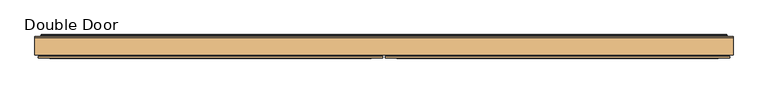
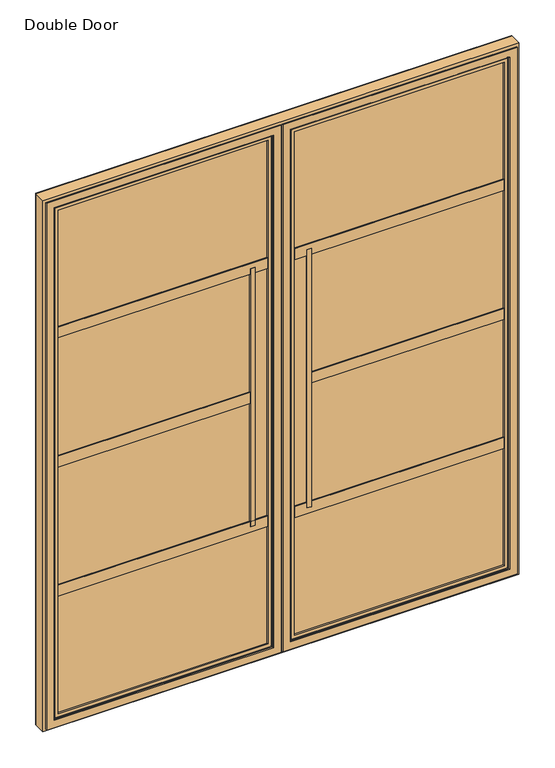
"""IFC4 building model written with IfcOpenShell, lengths in millimetres: door geometry, SMARTS_HeritageDoor 3Rail : Double Door."""

import ifcopenshell
import ifcopenshell.guid

model = None  # the IFC model being written
_history = None  # IfcOwnerHistory: only IFC2X3 demands one
_inside = {}  # id of a spatial element -> (the spatial element, [elements in it])
_under = {}  # id of a project, library or spatial element -> (it, [spatial elements below it])
_declared = {}  # id of a project -> (the project, [libraries it declares])
_typed = {}  # id of a type object -> (the type object, [elements of that type])
_made_of = {}  # id of a material, layer set ... -> (it, [elements and type objects made of it])


def new_model(schema):
    """Start an empty IFC model of exactly this schema.

    Asked for "IFC4X3", IfcOpenShell would pick the latest addendum, in which some entities
    have other attributes; the version numbers below select the first issue.
    IFC2X3 requires an IfcOwnerHistory on every rooted entity: one is made here for all.
    """
    global model, _history
    if schema == "IFC4X3":
        model = ifcopenshell.file(schema_version=(4, 3, 0, 0))
    else:
        model = ifcopenshell.file(schema=schema)
    _inside.clear()
    _under.clear()
    _declared.clear()
    _typed.clear()
    _made_of.clear()
    _history = None
    if model.schema == "IFC2X3":
        org = make("IfcOrganization", Name="unknown")
        user = make(
            "IfcPersonAndOrganization",
            ThePerson=make("IfcPerson", FamilyName="unknown"),
            TheOrganization=org,
        )
        app = make(
            "IfcApplication",
            ApplicationDeveloper=org,
            Version="unknown",
            ApplicationFullName="unknown",
            ApplicationIdentifier="unknown",
        )
        _history = make(
            "IfcOwnerHistory",
            OwningUser=user,
            OwningApplication=app,
            ChangeAction="ADDED",
            CreationDate=0,
        )
    return model


def make(cls, **values):
    """One entity of the class cls with the attributes given. An attribute that is None is left unset."""
    return model.create_entity(
        cls, **{name: value for name, value in values.items() if value is not None}
    )


def rooted(cls, **values):
    """An entity with a GlobalId (a new one), such as an element, a storey or a relation."""
    return make(cls, GlobalId=ifcopenshell.guid.new(), OwnerHistory=_history, **values)


def si_unit(unit_type, name, prefix=None):
    """IfcSIUnit, for example si_unit("LENGTHUNIT", "METRE", prefix="MILLI")."""
    return make("IfcSIUnit", UnitType=unit_type, Prefix=prefix, Name=name)


def assignment(units):
    """IfcUnitAssignment: the units of a project."""
    return None if units is None else make("IfcUnitAssignment", Units=units)


def point(xyz):
    """IfcCartesianPoint."""
    return None if xyz is None else make("IfcCartesianPoint", Coordinates=xyz)


def direction(xyz):
    """IfcDirection."""
    return None if xyz is None else make("IfcDirection", DirectionRatios=xyz)


def frame(location, z_axis=None, x_axis=None):
    """IfcAxis2Placement3D, a coordinate frame: its origin and axes. An axis left out is left unset."""
    return make(
        "IfcAxis2Placement3D",
        Location=point(location),
        Axis=direction(z_axis),
        RefDirection=direction(x_axis),
    )


def origin():
    """The frame at (0, 0, 0) with its axes left unset."""
    return frame((0.0, 0.0, 0.0))


def place(relative_to, where):
    """IfcLocalPlacement: puts the frame where relative to a parent placement (None: the world)."""
    return make(
        "IfcLocalPlacement", PlacementRelTo=relative_to, RelativePlacement=where
    )


def context(
    kind, dimensions, precision=None, world=None, true_north=None, identifier=None
):
    """IfcGeometricRepresentationContext, for example the 3D "Model" context."""
    return make(
        "IfcGeometricRepresentationContext",
        ContextIdentifier=identifier,
        ContextType=kind,
        CoordinateSpaceDimension=dimensions,
        Precision=precision,
        WorldCoordinateSystem=world,
        TrueNorth=true_north,
    )


def project(units=None, contexts=None):
    """IfcProject with its units and contexts."""
    return rooted(
        "IfcProject",
        Name="project",
        RepresentationContexts=contexts,
        UnitsInContext=assignment(units),
    )


def spatial(cls, under=None, at=None, **own):
    """A site, building, storey or space (cls), placed at a placement, below another one or the project."""
    s = rooted(cls, ObjectPlacement=at, **own)
    if under is not None:
        _under.setdefault(under.id(), (under, []))[1].append(s)
    return s


def polyline(points):
    """IfcPolyline through the points."""
    return make("IfcPolyline", Points=[point(p) for p in points])


def ellipse_curve(where, semi_axis1, semi_axis2):
    """IfcEllipse in the frame where."""
    return make(
        "IfcEllipse", Position=where, SemiAxis1=semi_axis1, SemiAxis2=semi_axis2
    )


def outline(outer, holes=None, kind="AREA"):
    """IfcArbitraryClosedProfileDef: a profile drawn as a closed curve; with holes, ...WithVoids."""
    if holes is None:
        return make("IfcArbitraryClosedProfileDef", ProfileType=kind, OuterCurve=outer)
    return make(
        "IfcArbitraryProfileDefWithVoids",
        ProfileType=kind,
        OuterCurve=outer,
        InnerCurves=holes,
    )


def extrude(swept, where, along, depth):
    """IfcExtrudedAreaSolid: the profile swept, set in the frame where, extruded along a direction by depth."""
    return make(
        "IfcExtrudedAreaSolid",
        SweptArea=swept,
        Position=where,
        ExtrudedDirection=direction(along),
        Depth=depth,
    )


def shape(context_of_items, identifier, shape_type, items):
    """IfcShapeRepresentation: the items that make up one representation, for example the "Body"."""
    return make(
        "IfcShapeRepresentation",
        ContextOfItems=context_of_items,
        RepresentationIdentifier=identifier,
        RepresentationType=shape_type,
        Items=items,
    )


def source(mapping_origin, context_of_items, identifier, shape_type, items):
    """IfcRepresentationMap: a shape defined once, which mapped items show again and again."""
    return make(
        "IfcRepresentationMap",
        MappingOrigin=mapping_origin,
        MappedRepresentation=shape(context_of_items, identifier, shape_type, items),
    )


def transform(
    local_origin,
    x_axis=None,
    y_axis=None,
    z_axis=None,
    scale=None,
    scale2=None,
    scale3=None,
    uniform=True,
):
    """IfcCartesianTransformationOperator3D, or its non-uniform kind. x_axis, y_axis, z_axis: its Axis1, 2, 3."""
    if uniform:
        return make(
            "IfcCartesianTransformationOperator3D",
            Axis1=direction(x_axis),
            Axis2=direction(y_axis),
            LocalOrigin=point(local_origin),
            Scale=scale,
            Axis3=direction(z_axis),
        )
    return make(
        "IfcCartesianTransformationOperator3DnonUniform",
        Axis1=direction(x_axis),
        Axis2=direction(y_axis),
        LocalOrigin=point(local_origin),
        Scale=scale,
        Axis3=direction(z_axis),
        Scale2=scale2,
        Scale3=scale3,
    )


def mapped(mapping_source, mapping_target):
    """IfcMappedItem: shows the shape of a source again, moved by a transform."""
    return make(
        "IfcMappedItem", MappingSource=mapping_source, MappingTarget=mapping_target
    )


def made_of(thing, what):
    """Note that an element or type object is made of a material, layer set ...; save() writes the relation."""
    if what is not None:
        _made_of.setdefault(what.id(), (what, []))[1].append(thing)
    return thing


def element(
    cls,
    number,
    at=None,
    inside=None,
    cuts=None,
    type_object=None,
    material=None,
    context=None,
    identifier="Body",
    shape_type=None,
    held_by="IfcProductDefinitionShape",
    body=None,
    shapes=None,
    **own,
):
    """One element of the class cls, such as IfcWall. Its Tag is "e" and its number.

    at: its placement. inside: the storey or other place that contains it. cuts: it is an
    opening in that element (IfcRelVoidsElement). A single representation is given by context,
    identifier, shape_type and body (its items); several are given by shapes. held_by: the class
    of the entity that holds the representations. save() writes the other relations.
    """
    e = rooted(cls, Tag="e%d" % number, ObjectPlacement=at, **own)
    if body is not None:
        shapes = [shape(context, identifier, shape_type, body)]
    if shapes is not None:
        e.Representation = make(held_by, Representations=shapes)
    if inside is not None:
        _inside.setdefault(inside.id(), (inside, []))[1].append(e)
    if cuts is not None:
        rooted(
            "IfcRelVoidsElement", RelatingBuildingElement=cuts, RelatedOpeningElement=e
        )
    if type_object is not None:
        _typed.setdefault(type_object.id(), (type_object, []))[1].append(e)
    return made_of(e, material)


def aggregate(whole, parts):
    """IfcRelAggregates: a whole, such as a stair, and the parts it consists of."""
    return rooted("IfcRelAggregates", RelatingObject=whole, RelatedObjects=parts)


def save(model, path):
    """Write the relations noted so far, then the file.

    IfcRelAggregates (storeys below a building ...), IfcRelContainedInSpatialStructure (elements
    in a storey), IfcRelDefinesByType, IfcRelAssociatesMaterial and IfcRelDeclares: one each for
    every whole, place, type object, material and project.
    """
    for whole, parts in _under.values():
        aggregate(whole, parts)
    for where, things in _inside.values():
        rooted(
            "IfcRelContainedInSpatialStructure",
            RelatedElements=things,
            RelatingStructure=where,
        )
    for kind, things in _typed.values():
        rooted("IfcRelDefinesByType", RelatedObjects=things, RelatingType=kind)
    for what, things in _made_of.values():
        rooted("IfcRelAssociatesMaterial", RelatedObjects=things, RelatingMaterial=what)
    for by, libraries in _declared.values():
        rooted("IfcRelDeclares", RelatingContext=by, RelatedDefinitions=libraries)
    model.write(path)


def plane_surface(at):
    """IfcPlane: the flat surface through the origin of the frame at, square to its z axis."""
    return make("IfcPlane", Position=at)


def cylinder_surface(at, radius):
    """IfcCylindricalSurface: all points at the distance radius from the z axis of the frame at."""
    return make("IfcCylindricalSurface", Position=at, Radius=radius)


def revolved_surface(curve, axis_point, axis_direction):
    """IfcSurfaceOfRevolution: the curve turned about the line through axis_point along axis_direction."""
    return make(
        "IfcSurfaceOfRevolution",
        SweptCurve=make("IfcArbitraryOpenProfileDef", ProfileType="CURVE", Curve=curve),
        AxisPosition=make("IfcAxis1Placement", Location=point(axis_point), Axis=direction(axis_direction)),
    )


def advanced_brep(points, edges, surfaces, faces):
    """IfcAdvancedBrep: a solid bounded by faces that lie on surfaces and meet in shared edges.

    An edge is (start, end): straight between two places in points (the first is 0);
    or (start, end, curve); or (start, end, curve, False) where it runs against its curve.
    A face is (place in surfaces, loops), or (place, loops, False) where it looks against
    its surface's normal. A loop lists edges by number (the first is 1), with a minus sign
    where the edge is run from its end to its start. The first loop is the outer one.
    """
    corners = [point(p) for p in points]
    vertices = [make("IfcVertexPoint", VertexGeometry=c) for c in corners]
    made = []
    for start, end, *more in edges:
        made.append(
            make(
                "IfcEdgeCurve",
                EdgeStart=vertices[start],
                EdgeEnd=vertices[end],
                EdgeGeometry=more[0] if more else make("IfcPolyline", Points=[corners[start], corners[end]]),
                SameSense=more[1] if len(more) > 1 else True,
            )
        )
    hull = []
    for where, loops, *sense in faces:
        bounds = []
        for j, loop in enumerate(loops):
            ring = [make("IfcOrientedEdge", EdgeElement=made[abs(k) - 1], Orientation=k > 0) for k in loop]
            bounds.append(
                make(
                    "IfcFaceOuterBound" if j == 0 else "IfcFaceBound",
                    Bound=make("IfcEdgeLoop", EdgeList=ring),
                    Orientation=True,
                )
            )
        hull.append(make("IfcAdvancedFace", Bounds=bounds, FaceSurface=surfaces[where], SameSense=sense[0] if sense else True))
    return make("IfcAdvancedBrep", Outer=make("IfcClosedShell", CfsFaces=hull))


def double_door_94a0a6c9(model_context):
    return source(origin(), model_context, "Body", "SolidModel", [
        extrude(outline(polyline([(-38.0, -66.0), (-846.5, -66.0), (-846.5, -62.0), (-38.0, -62.0), (-38.0, -66.0)])), frame((0.0, 0.0, 853.5), z_axis=(0.0, 0.0, 1.0), x_axis=(1.0, 0.0, 0.0)), (0.0, 0.0, 1.0), 2013.0),
        extrude(outline(polyline([(-38.0, -46.0), (-846.5, -46.0), (-846.5, -42.0), (-38.0, -42.0), (-38.0, -46.0)])), frame((0.0, 0.0, 853.5), z_axis=(0.0, 0.0, 1.0), x_axis=(1.0, 0.0, 0.0)), (0.0, 0.0, 1.0), 2013.0),
        extrude(outline(polyline([(2866.5, -846.5), (853.5, -846.5), (853.5, -38.0), (2866.5, -38.0), (2866.5, -846.5)]), holes=[polyline([(2856.5, -48.0), (863.5, -48.0), (863.5, -836.5), (2856.5, -836.5), (2856.5, -48.0)])]), frame((0.0, -62.0, 0.0), z_axis=(0.0, 1.0, 0.0), x_axis=(0.0, 0.0, 1.0)), (0.0, 0.0, 1.0), 16.0),
        extrude(outline(polyline([(-99.7380255, -38.3), (-114.7380255, -38.3), (-114.7380255, -27.0), (-99.7380255, -27.0), (-99.7380255, -38.3)])), frame((0.0, 0.0, 1350.0), z_axis=(0.0, 0.0, 1.0), x_axis=(1.0, 0.0, 0.0)), (0.0, 0.0, 1.0), 1020.0),
        extrude(outline(polyline([(-34.5, -27.0), (-34.5, -57.9), (-99.7380255, -57.9), (-99.7380255, -27.0), (-34.5, -27.0)])), frame((0.0, 0.0, 1350.0), z_axis=(0.0, 0.0, 1.0), x_axis=(1.0, 0.0, 0.0)), (0.0, 0.0, 1.0), 1020.0),
        extrude(outline(polyline([(-114.7380255, -69.6), (-99.7380255, -69.6), (-99.7380255, -57.9), (-34.3, -57.9), (-34.3, -67.9), (-98.0380255, -67.9), (-98.0380255, -73.8), (-114.7380255, -73.8), (-114.7380255, -69.6)])), frame((0.0, 0.0, 1350.0), z_axis=(0.0, 0.0, 1.0), x_axis=(1.0, 0.0, 0.0)), (0.0, 0.0, 1.0), 1020.0),
        extrude(outline(polyline([(2870.0052956, -850.0052956), (849.9947044, -850.0052956), (849.9947044, -34.4947044), (2870.0052956, -34.4947044), (2870.0052956, -850.0052956)]), holes=[polyline([(2855.0, -49.5), (865.0, -49.5), (865.0, -835.0), (2855.0, -835.0), (2855.0, -49.5)])]), frame((0.0, -39.3, 0.0), z_axis=(0.0, 1.0, 0.0), x_axis=(0.0, 0.0, 1.0)), (0.0, 0.0, 1.0), 11.3),
        extrude(outline(polyline([(2885.6451958, -18.8548042), (2885.6451958, -865.6451958), (834.3548042, -865.6451958), (834.3548042, -18.8548042), (2885.6451958, -18.8548042)]), holes=[polyline([(850.0, -34.5), (850.0, -850.0), (2870.0, -850.0), (2870.0, -34.5), (850.0, -34.5)])]), frame((0.0, -69.6, 0.0), z_axis=(0.0, 1.0, 0.0), x_axis=(0.0, 0.0, 1.0)), (0.0, 0.0, 1.0), 41.6),
        advanced_brep(
        [(-49.5, -74.8, 2855.0), (-49.5, -69.6, 2855.0), (-49.5, -69.6, 865.0), (-49.5, -74.8, 865.0), (-835.0, -69.6, 865.0), (-835.0, -74.8, 865.0), (-835.0, -69.6, 2855.0), (-835.0, -74.8, 2855.0), (-3.3, -76.0, 2901.2), (-3.3, -80.0, 2901.2), (-3.3, -80.0, 818.8), (-3.3, -76.0, 818.8), (-881.2, -80.0, 818.8), (-881.2, -76.0, 818.8), (-881.2, -80.0, 2901.2), (-881.2, -76.0, 2901.2), (-18.3532343, -76.0, 2886.1467657), (-866.1467657, -76.0, 2886.1467657), (-866.1467657, -76.0, 833.8532343), (-18.3532343, -76.0, 833.8532343), (-32.3, -80.0, 847.8), (-852.2, -80.0, 847.8), (-852.2, -80.0, 2872.2), (-32.3, -80.0, 2872.2), (-18.3532343, -69.6, 2886.1467657), (-18.3532343, -69.6, 833.8532343), (-866.1467657, -69.6, 833.8532343), (-866.1467657, -69.6, 2886.1467657), (-34.3, -78.0, 2870.2), (-34.3, -76.8, 2870.2), (-34.3, -76.8, 849.8), (-34.3, -78.0, 849.8), (-36.3, -74.8, 2868.2), (-36.3, -74.8, 851.8), (-850.2, -76.8, 849.8), (-850.2, -78.0, 849.8), (-848.2, -74.8, 851.8), (-850.2, -76.8, 2870.2), (-850.2, -78.0, 2870.2), (-848.2, -74.8, 2868.2)],
        [
            (0, 1),
            (1, 2),
            (2, 3),
            (3, 0),
            (2, 4),
            (4, 5),
            (5, 3),
            (4, 6),
            (6, 7),
            (7, 5),
            (6, 1),
            (0, 7),
            (8, 9),
            (9, 10),
            (10, 11),
            (11, 8),
            (10, 12),
            (12, 13),
            (13, 11),
            (12, 14),
            (14, 15),
            (15, 13),
            (15, 8),
            (16, 17),
            (17, 18),
            (18, 19),
            (19, 16),
            (14, 9),
            (20, 21),
            (21, 22),
            (22, 23),
            (23, 20),
            (24, 16),
            (19, 25),
            (25, 24),
            (18, 26),
            (26, 25),
            (17, 27),
            (27, 26),
            (27, 24),
            (28, 29),
            (29, 30),
            (30, 31),
            (31, 28),
            (29, 32, ellipse_curve(frame((-36.3, -76.8, 2868.2), z_axis=(-0.7071067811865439, 0.0, 0.7071067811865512), x_axis=(-0.7071067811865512, 0.0, -0.7071067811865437)), 2.8284271, 2.0)),
            (32, 33),
            (33, 30, ellipse_curve(frame((-36.3, -76.8, 851.8), z_axis=(-0.7071067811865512, 0.0, -0.7071067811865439), x_axis=(0.707106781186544, 0.0, -0.707106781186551)), 2.8284271, 2.0)),
            (30, 34),
            (34, 35),
            (35, 31),
            (33, 36),
            (36, 34, ellipse_curve(frame((-848.2, -76.8, 851.8), z_axis=(-0.7071067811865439, 0.0, 0.7071067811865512), x_axis=(-0.707106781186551, 0.0, -0.707106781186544)), 2.8284271, 2.0)),
            (34, 37),
            (37, 38),
            (38, 35),
            (36, 39),
            (39, 37, ellipse_curve(frame((-848.2, -76.8, 2868.2), z_axis=(0.7071067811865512, 0.0, 0.7071067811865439), x_axis=(-0.707106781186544, 0.0, 0.707106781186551)), 2.8284271, 2.0)),
            (32, 39),
            (37, 29),
            (28, 38),
            (23, 28, ellipse_curve(frame((-32.3, -78.0, 2872.2), z_axis=(0.7071067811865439, 0.0, -0.7071067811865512), x_axis=(0.7071067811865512, 0.0, 0.7071067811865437)), 2.8284271, 2.0)),
            (31, 20, ellipse_curve(frame((-32.3, -78.0, 847.8), z_axis=(0.7071067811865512, 0.0, 0.7071067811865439), x_axis=(-0.707106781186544, 0.0, 0.707106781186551)), 2.8284271, 2.0)),
            (35, 21, ellipse_curve(frame((-852.2, -78.0, 847.8), z_axis=(0.7071067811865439, 0.0, -0.7071067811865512), x_axis=(0.707106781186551, 0.0, 0.707106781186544)), 2.8284271, 2.0)),
            (38, 22, ellipse_curve(frame((-852.2, -78.0, 2872.2), z_axis=(-0.7071067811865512, 0.0, -0.7071067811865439), x_axis=(0.707106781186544, 0.0, -0.707106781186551)), 2.8284271, 2.0)),
        ],
        [
            plane_surface(frame((-49.5, -69.6, 2855.0), z_axis=(-1.0, 0.0, 0.0), x_axis=(0.0, 0.0, -1.0))),
            plane_surface(frame((-49.5, -69.6, 865.0), z_axis=(0.0, 0.0, 1.0), x_axis=(-1.0, 0.0, 0.0))),
            plane_surface(frame((-835.0, -69.6, 865.0), z_axis=(1.0, 0.0, 0.0), x_axis=(0.0, 0.0, 1.0))),
            plane_surface(frame((-835.0, -69.6, 2855.0), z_axis=(0.0, 0.0, -1.0), x_axis=(1.0, 0.0, 0.0))),
            plane_surface(frame((-3.3, -80.0, 2901.2), z_axis=(1.0, 0.0, 0.0), x_axis=(0.0, 0.0, -1.0))),
            plane_surface(frame((-3.3, -80.0, 818.8), z_axis=(0.0, 0.0, -1.0), x_axis=(-1.0, 0.0, 0.0))),
            plane_surface(frame((-881.2, -80.0, 818.8), z_axis=(-1.0, 0.0, 0.0), x_axis=(0.0, 0.0, 1.0))),
            plane_surface(frame((-881.2, -76.0, 2901.2), z_axis=(0.0, 1.0, 0.0), x_axis=(1.0, 0.0, 0.0))),
            plane_surface(frame((-881.2, -80.0, 2901.2), z_axis=(0.0, 0.0, 1.0), x_axis=(1.0, 0.0, 0.0))),
            plane_surface(frame((-852.2, -80.0, 2872.2), z_axis=(0.0, -1.0, 0.0), x_axis=(1.0, 0.0, 0.0))),
            plane_surface(frame((-18.3532343, -76.0, 2886.1467657), z_axis=(1.0, 0.0, 0.0), x_axis=(0.0, 0.0, -1.0))),
            plane_surface(frame((-18.3532343, -76.0, 833.8532343), z_axis=(0.0, 0.0, -1.0), x_axis=(-1.0, 0.0, 0.0))),
            plane_surface(frame((-866.1467657, -76.0, 833.8532343), z_axis=(-1.0, 0.0, 0.0), x_axis=(0.0, 0.0, 1.0))),
            plane_surface(frame((-866.1467657, -69.6, 2886.1467657), z_axis=(0.0, 1.0, 0.0), x_axis=(1.0, 0.0, 0.0))),
            plane_surface(frame((-866.1467657, -76.0, 2886.1467657), z_axis=(0.0, 0.0, 1.0), x_axis=(1.0, 0.0, 0.0))),
            plane_surface(frame((-34.3, -76.8, 2870.2), z_axis=(-1.0, 0.0, 0.0), x_axis=(0.0, 0.0, -1.0))),
            revolved_surface(polyline([(-34.3, -76.8, 849.8), (-34.3, -76.8, 2870.2)]), (-36.3, -76.8, 2880.0), (0.0, 0.0, -1.0)),
            plane_surface(frame((-34.3, -76.8, 849.8), z_axis=(0.0, 0.0, 1.0), x_axis=(-1.0, 0.0, 0.0))),
            revolved_surface(polyline([(-850.2, -76.8, 849.8), (-34.3, -76.8, 849.8)]), (-24.5, -76.8, 851.8), (-1.0, 0.0, 0.0)),
            plane_surface(frame((-850.2, -76.8, 849.8), z_axis=(1.0, 0.0, 0.0), x_axis=(0.0, 0.0, 1.0))),
            revolved_surface(polyline([(-850.2, -76.8, 2870.2), (-850.2, -76.8, 849.8)]), (-848.2, -76.8, 840.0), (0.0, 0.0, 1.0)),
            plane_surface(frame((-835.0, -74.8, 2855.0), z_axis=(0.0, -1.0, 0.0), x_axis=(1.0, 0.0, 0.0))),
            plane_surface(frame((-850.2, -76.8, 2870.2), z_axis=(0.0, 0.0, -1.0), x_axis=(1.0, 0.0, 0.0))),
            revolved_surface(polyline([(-34.299999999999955, -76.8, 2870.2), (-850.2, -76.8, 2870.2)]), (-860.0, -76.8, 2868.2), (1.0, 0.0, 0.0)),
            cylinder_surface(frame((-32.3, -78.0, 2880.0), z_axis=(0.0, 0.0, 1.0), x_axis=(1.0, 0.0, 0.0)), 2.0),
            cylinder_surface(frame((-24.5, -78.0, 847.8), z_axis=(1.0, 0.0, 0.0), x_axis=(0.0, 0.0, -1.0)), 2.0),
            cylinder_surface(frame((-852.2, -78.0, 840.0), z_axis=(0.0, 0.0, -1.0), x_axis=(-1.0, 0.0, 0.0)), 2.0),
            cylinder_surface(frame((-860.0, -78.0, 2872.2), z_axis=(-1.0, 0.0, 0.0), x_axis=(0.0, 0.0, 1.0)), 2.0),
        ],
        [
            (0, [[1, 2, 3, 4]]),
            (1, [[-3, 5, 6, 7]]),
            (2, [[-6, 8, 9, 10]]),
            (3, [[-9, 11, -1, 12]]),
            (4, [[13, 14, 15, 16]]),
            (5, [[-15, 17, 18, 19]]),
            (6, [[-18, 20, 21, 22]]),
            (7, [[-19, -22, 23, -16], [24, 25, 26, 27]]),
            (8, [[-21, 28, -13, -23]]),
            (9, [[-28, -20, -17, -14], [29, 30, 31, 32]]),
            (10, [[33, -27, 34, 35]]),
            (11, [[-34, -26, 36, 37]]),
            (12, [[-36, -25, 38, 39]]),
            (13, [[-37, -39, 40, -35], [-11, -8, -5, -2]]),
            (14, [[-38, -24, -33, -40]]),
            (15, [[41, 42, 43, 44]]),
            (16, [[45, 46, 47, -42]]),
            (17, [[-43, 48, 49, 50]]),
            (18, [[-47, 51, 52, -48]]),
            (19, [[-49, 53, 54, 55]]),
            (20, [[-52, 56, 57, -53]]),
            (21, [[58, -56, -51, -46], [-7, -10, -12, -4]]),
            (22, [[-54, 59, -41, 60]]),
            (23, [[-57, -58, -45, -59]]),
            (24, [[61, -44, 62, -32]]),
            (25, [[-62, -50, 63, -29]]),
            (26, [[-63, -55, 64, -30]]),
            (27, [[-64, -60, -61, -31]]),
        ],
    ),
        extrude(outline(polyline([(-835.0, -38.4690746), (-835.0, -27.1690746), (-114.7380255, -27.1690746), (-114.7380255, -38.4690746), (-835.0, -38.4690746)])), frame((0.0, 0.0, 1838.75), z_axis=(0.0, 0.0, 1.0), x_axis=(1.0, 0.0, 0.0)), (0.0, 0.0, 1.0), 16.15),
        extrude(outline(polyline([(-835.0, -38.4690746), (-835.0, -27.1690746), (-114.7380255, -27.1690746), (-114.7380255, -38.4690746), (-835.0, -38.4690746)])), frame((0.0, 0.0, 1866.25), z_axis=(0.0, 0.0, 1.0), x_axis=(1.0, 0.0, 0.0)), (0.0, 0.0, 1.0), 15.0052956),
        extrude(outline(polyline([(-835.0, -53.5843537), (-835.0, -27.1690746), (-114.7380255, -27.1690746), (-114.7380255, -53.5843537), (-835.0, -53.5843537)])), frame((0.0, 0.0, 1853.75), z_axis=(0.0, 0.0, 1.0), x_axis=(1.0, 0.0, 0.0)), (0.0, 0.0, 1.0), 12.5),
        extrude(outline(polyline([(-69.9690746, 1881.2552956), (-69.9690746, 1866.25), (-53.5843537, 1866.25), (-53.5843537, 1853.75), (-69.9690746, 1853.75), (-69.9690746, 1838.75), (-73.9687074, 1838.75), (-73.9687074, 1881.2552956), (-69.9690746, 1881.2552956)])), frame((-835.0, 0.0, 0.0), z_axis=(1.0, 0.0, 0.0), x_axis=(0.0, 1.0, 0.0)), (0.0, 0.0, 1.0), 720.5),
        extrude(outline(polyline([(-835.0, -38.4690746), (-835.0, -27.1690746), (-49.5, -27.1690746), (-49.5, -38.4690746), (-835.0, -38.4690746)])), frame((0.0, 0.0, 2348.75), z_axis=(0.0, 0.0, 1.0), x_axis=(1.0, 0.0, 0.0)), (0.0, 0.0, 1.0), 16.15),
        extrude(outline(polyline([(-835.0, -38.4690746), (-835.0, -27.1690746), (-49.5, -27.1690746), (-49.5, -38.4690746), (-835.0, -38.4690746)])), frame((0.0, 0.0, 2376.25), z_axis=(0.0, 0.0, 1.0), x_axis=(1.0, 0.0, 0.0)), (0.0, 0.0, 1.0), 15.0052956),
        extrude(outline(polyline([(-835.0, -53.5843537), (-835.0, -27.1690746), (-49.5, -27.1690746), (-49.5, -53.5843537), (-835.0, -53.5843537)])), frame((0.0, 0.0, 2363.75), z_axis=(0.0, 0.0, 1.0), x_axis=(1.0, 0.0, 0.0)), (0.0, 0.0, 1.0), 12.5),
        extrude(outline(polyline([(-69.9690746, 2391.2552956), (-69.9690746, 2376.25), (-53.5843537, 2376.25), (-53.5843537, 2363.75), (-69.9690746, 2363.75), (-69.9690746, 2348.75), (-73.9687074, 2348.75), (-73.9687074, 2391.2552956), (-69.9690746, 2391.2552956)])), frame((-835.0, 0.0, 0.0), z_axis=(1.0, 0.0, 0.0), x_axis=(0.0, 1.0, 0.0)), (0.0, 0.0, 1.0), 785.5),
        extrude(outline(polyline([(-835.0, -38.4690746), (-835.0, -27.1690746), (-49.5, -27.1690746), (-49.5, -38.4690746), (-835.0, -38.4690746)])), frame((0.0, 0.0, 1328.75), z_axis=(0.0, 0.0, 1.0), x_axis=(1.0, 0.0, 0.0)), (0.0, 0.0, 1.0), 16.15),
        extrude(outline(polyline([(-835.0, -38.4690746), (-835.0, -27.1690746), (-49.5, -27.1690746), (-49.5, -38.4690746), (-835.0, -38.4690746)])), frame((0.0, 0.0, 1356.25), z_axis=(0.0, 0.0, 1.0), x_axis=(1.0, 0.0, 0.0)), (0.0, 0.0, 1.0), 15.0052956),
        extrude(outline(polyline([(-835.0, -53.5843537), (-835.0, -27.1690746), (-49.5, -27.1690746), (-49.5, -53.5843537), (-835.0, -53.5843537)])), frame((0.0, 0.0, 1343.75), z_axis=(0.0, 0.0, 1.0), x_axis=(1.0, 0.0, 0.0)), (0.0, 0.0, 1.0), 12.5),
        extrude(outline(polyline([(-69.9690746, 1371.2552956), (-69.9690746, 1356.25), (-53.5843537, 1356.25), (-53.5843537, 1343.75), (-69.9690746, 1343.75), (-69.9690746, 1328.75), (-73.9687074, 1328.75), (-73.9687074, 1371.2552956), (-69.9690746, 1371.2552956)])), frame((-835.0, 0.0, 0.0), z_axis=(1.0, 0.0, 0.0), x_axis=(0.0, 1.0, 0.0)), (0.0, 0.0, 1.0), 785.5),
        extrude(outline(polyline([(38.0, -66.0), (38.0, -62.0), (846.5, -62.0), (846.5, -66.0), (38.0, -66.0)])), frame((0.0, 0.0, 853.5), z_axis=(0.0, 0.0, 1.0), x_axis=(1.0, 0.0, 0.0)), (0.0, 0.0, 1.0), 2013.0),
        extrude(outline(polyline([(38.0, -46.0), (38.0, -42.0), (846.5, -42.0), (846.5, -46.0), (38.0, -46.0)])), frame((0.0, 0.0, 853.5), z_axis=(0.0, 0.0, 1.0), x_axis=(1.0, 0.0, 0.0)), (0.0, 0.0, 1.0), 2013.0),
        extrude(outline(polyline([(2866.5, 846.5), (2866.5, 38.0), (853.5, 38.0), (853.5, 846.5), (2866.5, 846.5)]), holes=[polyline([(2856.5, 48.0), (2856.5, 836.5), (863.5, 836.5), (863.5, 48.0), (2856.5, 48.0)])]), frame((0.0, -62.0, 0.0), z_axis=(0.0, 1.0, 0.0), x_axis=(0.0, 0.0, 1.0)), (0.0, 0.0, 1.0), 16.0),
        extrude(outline(polyline([(99.7380255, -38.3), (99.7380255, -27.0), (114.7380255, -27.0), (114.7380255, -38.3), (99.7380255, -38.3)])), frame((0.0, 0.0, 1350.0), z_axis=(0.0, 0.0, 1.0), x_axis=(1.0, 0.0, 0.0)), (0.0, 0.0, 1.0), 1020.0),
        extrude(outline(polyline([(34.5, -27.0), (99.7380255, -27.0), (99.7380255, -57.9), (34.5, -57.9), (34.5, -27.0)])), frame((0.0, 0.0, 1350.0), z_axis=(0.0, 0.0, 1.0), x_axis=(1.0, 0.0, 0.0)), (0.0, 0.0, 1.0), 1020.0),
        extrude(outline(polyline([(114.7380255, -69.6), (114.7380255, -73.8), (98.0380255, -73.8), (98.0380255, -67.9), (34.3, -67.9), (34.3, -57.9), (99.7380255, -57.9), (99.7380255, -69.6), (114.7380255, -69.6)])), frame((0.0, 0.0, 1350.0), z_axis=(0.0, 0.0, 1.0), x_axis=(1.0, 0.0, 0.0)), (0.0, 0.0, 1.0), 1020.0),
        extrude(outline(polyline([(2870.0052956, 850.0052956), (2870.0052956, 34.4947044), (849.9947044, 34.4947044), (849.9947044, 850.0052956), (2870.0052956, 850.0052956)]), holes=[polyline([(2855.0, 49.5), (2855.0, 835.0), (865.0, 835.0), (865.0, 49.5), (2855.0, 49.5)])]), frame((0.0, -39.3, 0.0), z_axis=(0.0, 1.0, 0.0), x_axis=(0.0, 0.0, 1.0)), (0.0, 0.0, 1.0), 11.3),
        extrude(outline(polyline([(2885.6451958, 18.8548042), (834.3548042, 18.8548042), (834.3548042, 865.6451958), (2885.6451958, 865.6451958), (2885.6451958, 18.8548042)]), holes=[polyline([(850.0, 34.5), (2870.0, 34.5), (2870.0, 850.0), (850.0, 850.0), (850.0, 34.5)])]), frame((0.0, -69.6, 0.0), z_axis=(0.0, 1.0, 0.0), x_axis=(0.0, 0.0, 1.0)), (0.0, 0.0, 1.0), 41.6),
        advanced_brep(
        [(49.5, -74.8, 2855.0), (49.5, -74.8, 865.0), (49.5, -69.6, 865.0), (49.5, -69.6, 2855.0), (835.0, -74.8, 865.0), (835.0, -69.6, 865.0), (835.0, -74.8, 2855.0), (835.0, -69.6, 2855.0), (3.3, -76.0, 2901.2), (3.3, -76.0, 818.8), (3.3, -80.0, 818.8), (3.3, -80.0, 2901.2), (881.2, -76.0, 818.8), (881.2, -80.0, 818.8), (881.2, -76.0, 2901.2), (881.2, -80.0, 2901.2), (18.3532343, -76.0, 2886.1467657), (18.3532343, -76.0, 833.8532343), (866.1467657, -76.0, 833.8532343), (866.1467657, -76.0, 2886.1467657), (32.3, -80.0, 847.8), (32.3, -80.0, 2872.2), (852.2, -80.0, 2872.2), (852.2, -80.0, 847.8), (18.3532343, -69.6, 2886.1467657), (18.3532343, -69.6, 833.8532343), (866.1467657, -69.6, 833.8532343), (866.1467657, -69.6, 2886.1467657), (34.3, -78.0, 2870.2), (34.3, -78.0, 849.8), (34.3, -76.8, 849.8), (34.3, -76.8, 2870.2), (36.3, -74.8, 851.8), (36.3, -74.8, 2868.2), (850.2, -78.0, 849.8), (850.2, -76.8, 849.8), (848.2, -74.8, 851.8), (850.2, -78.0, 2870.2), (850.2, -76.8, 2870.2), (848.2, -74.8, 2868.2)],
        [
            (0, 1),
            (1, 2),
            (2, 3),
            (3, 0),
            (1, 4),
            (4, 5),
            (5, 2),
            (4, 6),
            (6, 7),
            (7, 5),
            (6, 0),
            (3, 7),
            (8, 9),
            (9, 10),
            (10, 11),
            (11, 8),
            (9, 12),
            (12, 13),
            (13, 10),
            (12, 14),
            (14, 15),
            (15, 13),
            (8, 14),
            (16, 17),
            (17, 18),
            (18, 19),
            (19, 16),
            (11, 15),
            (20, 21),
            (21, 22),
            (22, 23),
            (23, 20),
            (24, 25),
            (25, 17),
            (16, 24),
            (25, 26),
            (26, 18),
            (26, 27),
            (27, 19),
            (24, 27),
            (28, 29),
            (29, 30),
            (30, 31),
            (31, 28),
            (30, 32, ellipse_curve(frame((36.3, -76.8, 851.8), z_axis=(0.7071067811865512, 0.0, -0.7071067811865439), x_axis=(-0.707106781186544, 0.0, -0.707106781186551)), 2.8284271, 2.0)),
            (32, 33),
            (33, 31, ellipse_curve(frame((36.3, -76.8, 2868.2), z_axis=(0.7071067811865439, 0.0, 0.7071067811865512), x_axis=(0.7071067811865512, 0.0, -0.7071067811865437)), 2.8284271, 2.0)),
            (29, 34),
            (34, 35),
            (35, 30),
            (35, 36, ellipse_curve(frame((848.2, -76.8, 851.8), z_axis=(0.7071067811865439, 0.0, 0.7071067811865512), x_axis=(0.707106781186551, 0.0, -0.707106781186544)), 2.8284271, 2.0)),
            (36, 32),
            (34, 37),
            (37, 38),
            (38, 35),
            (38, 39, ellipse_curve(frame((848.2, -76.8, 2868.2), z_axis=(-0.7071067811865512, 0.0, 0.7071067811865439), x_axis=(0.707106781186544, 0.0, 0.707106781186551)), 2.8284271, 2.0)),
            (39, 36),
            (39, 33),
            (37, 28),
            (31, 38),
            (20, 29, ellipse_curve(frame((32.3, -78.0, 847.8), z_axis=(-0.7071067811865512, 0.0, 0.7071067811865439), x_axis=(0.707106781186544, 0.0, 0.707106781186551)), 2.8284271, 2.0)),
            (28, 21, ellipse_curve(frame((32.3, -78.0, 2872.2), z_axis=(-0.7071067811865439, 0.0, -0.7071067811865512), x_axis=(-0.7071067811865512, 0.0, 0.7071067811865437)), 2.8284271, 2.0)),
            (23, 34, ellipse_curve(frame((852.2, -78.0, 847.8), z_axis=(-0.7071067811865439, 0.0, -0.7071067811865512), x_axis=(-0.707106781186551, 0.0, 0.707106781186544)), 2.8284271, 2.0)),
            (22, 37, ellipse_curve(frame((852.2, -78.0, 2872.2), z_axis=(0.7071067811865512, 0.0, -0.7071067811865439), x_axis=(-0.707106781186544, 0.0, -0.707106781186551)), 2.8284271, 2.0)),
        ],
        [
            plane_surface(frame((49.5, -69.6, 2855.0), z_axis=(1.0, 0.0, 0.0), x_axis=(0.0, 0.0, -1.0))),
            plane_surface(frame((49.5, -69.6, 865.0), z_axis=(0.0, 0.0, 1.0), x_axis=(1.0, 0.0, 0.0))),
            plane_surface(frame((835.0, -69.6, 865.0), z_axis=(-1.0, 0.0, 0.0), x_axis=(0.0, 0.0, 1.0))),
            plane_surface(frame((835.0, -69.6, 2855.0), z_axis=(0.0, 0.0, -1.0), x_axis=(-1.0, 0.0, 0.0))),
            plane_surface(frame((3.3, -80.0, 2901.2), z_axis=(-1.0, 0.0, 0.0), x_axis=(0.0, 0.0, -1.0))),
            plane_surface(frame((3.3, -80.0, 818.8), z_axis=(0.0, 0.0, -1.0), x_axis=(1.0, 0.0, 0.0))),
            plane_surface(frame((881.2, -80.0, 818.8), z_axis=(1.0, 0.0, 0.0), x_axis=(0.0, 0.0, 1.0))),
            plane_surface(frame((881.2, -76.0, 2901.2), z_axis=(0.0, 1.0, 0.0), x_axis=(-1.0, 0.0, 0.0))),
            plane_surface(frame((881.2, -80.0, 2901.2), z_axis=(0.0, 0.0, 1.0), x_axis=(-1.0, 0.0, 0.0))),
            plane_surface(frame((852.2, -80.0, 2872.2), z_axis=(0.0, -1.0, 0.0), x_axis=(-1.0, 0.0, 0.0))),
            plane_surface(frame((18.3532343, -76.0, 2886.1467657), z_axis=(-1.0, 0.0, 0.0), x_axis=(0.0, 0.0, -1.0))),
            plane_surface(frame((18.3532343, -76.0, 833.8532343), z_axis=(0.0, 0.0, -1.0), x_axis=(1.0, 0.0, 0.0))),
            plane_surface(frame((866.1467657, -76.0, 833.8532343), z_axis=(1.0, 0.0, 0.0), x_axis=(0.0, 0.0, 1.0))),
            plane_surface(frame((866.1467657, -69.6, 2886.1467657), z_axis=(0.0, 1.0, 0.0), x_axis=(-1.0, 0.0, 0.0))),
            plane_surface(frame((866.1467657, -76.0, 2886.1467657), z_axis=(0.0, 0.0, 1.0), x_axis=(-1.0, 0.0, 0.0))),
            plane_surface(frame((34.3, -76.8, 2870.2), z_axis=(1.0, 0.0, 0.0), x_axis=(0.0, 0.0, -1.0))),
            revolved_surface(polyline([(34.3, -76.8, 849.8), (34.3, -76.8, 2870.2)]), (36.3, -76.8, 2880.0), (0.0, 0.0, -1.0)),
            plane_surface(frame((34.3, -76.8, 849.8), z_axis=(0.0, 0.0, 1.0), x_axis=(1.0, 0.0, 0.0))),
            revolved_surface(polyline([(850.2, -76.8, 849.8), (34.3, -76.8, 849.8)]), (24.5, -76.8, 851.8), (1.0, 0.0, 0.0)),
            plane_surface(frame((850.2, -76.8, 849.8), z_axis=(-1.0, 0.0, 0.0), x_axis=(0.0, 0.0, 1.0))),
            revolved_surface(polyline([(850.2, -76.8, 2870.2), (850.2, -76.8, 849.8)]), (848.2, -76.8, 840.0), (0.0, 0.0, 1.0)),
            plane_surface(frame((835.0, -74.8, 2855.0), z_axis=(0.0, -1.0, 0.0), x_axis=(-1.0, 0.0, 0.0))),
            plane_surface(frame((850.2, -76.8, 2870.2), z_axis=(0.0, 0.0, -1.0), x_axis=(-1.0, 0.0, 0.0))),
            revolved_surface(polyline([(34.299999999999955, -76.8, 2870.2), (850.2, -76.8, 2870.2)]), (860.0, -76.8, 2868.2), (-1.0, 0.0, 0.0)),
            cylinder_surface(frame((32.3, -78.0, 2880.0), z_axis=(0.0, 0.0, 1.0), x_axis=(-1.0, 0.0, 0.0)), 2.0),
            cylinder_surface(frame((24.5, -78.0, 847.8), z_axis=(-1.0, 0.0, 0.0), x_axis=(0.0, 0.0, -1.0)), 2.0),
            cylinder_surface(frame((852.2, -78.0, 840.0), z_axis=(0.0, 0.0, -1.0), x_axis=(1.0, 0.0, 0.0)), 2.0),
            cylinder_surface(frame((860.0, -78.0, 2872.2), z_axis=(1.0, 0.0, 0.0), x_axis=(0.0, 0.0, 1.0)), 2.0),
        ],
        [
            (0, [[1, 2, 3, 4]]),
            (1, [[5, 6, 7, -2]]),
            (2, [[8, 9, 10, -6]]),
            (3, [[11, -4, 12, -9]]),
            (4, [[13, 14, 15, 16]]),
            (5, [[17, 18, 19, -14]]),
            (6, [[20, 21, 22, -18]]),
            (7, [[-13, 23, -20, -17], [24, 25, 26, 27]]),
            (8, [[-23, -16, 28, -21]]),
            (9, [[-15, -19, -22, -28], [29, 30, 31, 32]]),
            (10, [[33, 34, -24, 35]]),
            (11, [[36, 37, -25, -34]]),
            (12, [[38, 39, -26, -37]]),
            (13, [[-33, 40, -38, -36], [-3, -7, -10, -12]]),
            (14, [[-40, -35, -27, -39]]),
            (15, [[41, 42, 43, 44]]),
            (16, [[-43, 45, 46, 47]]),
            (17, [[48, 49, 50, -42]]),
            (18, [[-50, 51, 52, -45]]),
            (19, [[53, 54, 55, -49]]),
            (20, [[-55, 56, 57, -51]]),
            (21, [[-46, -52, -57, 58], [-1, -11, -8, -5]]),
            (22, [[59, -44, 60, -54]]),
            (23, [[-60, -47, -58, -56]]),
            (24, [[-29, 61, -41, 62]]),
            (25, [[-32, 63, -48, -61]]),
            (26, [[-31, 64, -53, -63]]),
            (27, [[-30, -62, -59, -64]]),
        ],
    ),
        extrude(outline(polyline([(835.0, -38.4690746), (114.7380255, -38.4690746), (114.7380255, -27.1690746), (835.0, -27.1690746), (835.0, -38.4690746)])), frame((0.0, 0.0, 1838.75), z_axis=(0.0, 0.0, 1.0), x_axis=(1.0, 0.0, 0.0)), (0.0, 0.0, 1.0), 16.15),
        extrude(outline(polyline([(835.0, -38.4690746), (114.7380255, -38.4690746), (114.7380255, -27.1690746), (835.0, -27.1690746), (835.0, -38.4690746)])), frame((0.0, 0.0, 1866.25), z_axis=(0.0, 0.0, 1.0), x_axis=(1.0, 0.0, 0.0)), (0.0, 0.0, 1.0), 15.0052956),
        extrude(outline(polyline([(835.0, -53.5843537), (114.7380255, -53.5843537), (114.7380255, -27.1690746), (835.0, -27.1690746), (835.0, -53.5843537)])), frame((0.0, 0.0, 1853.75), z_axis=(0.0, 0.0, 1.0), x_axis=(1.0, 0.0, 0.0)), (0.0, 0.0, 1.0), 12.5),
        extrude(outline(polyline([(-69.9690746, 1881.2552956), (-69.9690746, 1866.25), (-53.5843537, 1866.25), (-53.5843537, 1853.75), (-69.9690746, 1853.75), (-69.9690746, 1838.75), (-73.9687074, 1838.75), (-73.9687074, 1881.2552956), (-69.9690746, 1881.2552956)])), frame((114.5, 0.0, 0.0), z_axis=(1.0, 0.0, 0.0), x_axis=(0.0, 1.0, 0.0)), (0.0, 0.0, 1.0), 720.5),
        extrude(outline(polyline([(835.0, -38.4690746), (49.5, -38.4690746), (49.5, -27.1690746), (835.0, -27.1690746), (835.0, -38.4690746)])), frame((0.0, 0.0, 2348.75), z_axis=(0.0, 0.0, 1.0), x_axis=(1.0, 0.0, 0.0)), (0.0, 0.0, 1.0), 16.15),
        extrude(outline(polyline([(835.0, -38.4690746), (49.5, -38.4690746), (49.5, -27.1690746), (835.0, -27.1690746), (835.0, -38.4690746)])), frame((0.0, 0.0, 2376.25), z_axis=(0.0, 0.0, 1.0), x_axis=(1.0, 0.0, 0.0)), (0.0, 0.0, 1.0), 15.0052956),
        extrude(outline(polyline([(835.0, -53.5843537), (49.5, -53.5843537), (49.5, -27.1690746), (835.0, -27.1690746), (835.0, -53.5843537)])), frame((0.0, 0.0, 2363.75), z_axis=(0.0, 0.0, 1.0), x_axis=(1.0, 0.0, 0.0)), (0.0, 0.0, 1.0), 12.5),
        extrude(outline(polyline([(-69.9690746, 2391.2552956), (-69.9690746, 2376.25), (-53.5843537, 2376.25), (-53.5843537, 2363.75), (-69.9690746, 2363.75), (-69.9690746, 2348.75), (-73.9687074, 2348.75), (-73.9687074, 2391.2552956), (-69.9690746, 2391.2552956)])), frame((49.5, 0.0, 0.0), z_axis=(1.0, 0.0, 0.0), x_axis=(0.0, 1.0, 0.0)), (0.0, 0.0, 1.0), 785.5),
        extrude(outline(polyline([(835.0, -38.4690746), (49.5, -38.4690746), (49.5, -27.1690746), (835.0, -27.1690746), (835.0, -38.4690746)])), frame((0.0, 0.0, 1328.75), z_axis=(0.0, 0.0, 1.0), x_axis=(1.0, 0.0, 0.0)), (0.0, 0.0, 1.0), 16.15),
        extrude(outline(polyline([(835.0, -38.4690746), (49.5, -38.4690746), (49.5, -27.1690746), (835.0, -27.1690746), (835.0, -38.4690746)])), frame((0.0, 0.0, 1356.25), z_axis=(0.0, 0.0, 1.0), x_axis=(1.0, 0.0, 0.0)), (0.0, 0.0, 1.0), 15.0052956),
        extrude(outline(polyline([(835.0, -53.5843537), (49.5, -53.5843537), (49.5, -27.1690746), (835.0, -27.1690746), (835.0, -53.5843537)])), frame((0.0, 0.0, 1343.75), z_axis=(0.0, 0.0, 1.0), x_axis=(1.0, 0.0, 0.0)), (0.0, 0.0, 1.0), 12.5),
        extrude(outline(polyline([(-69.9690746, 1371.2552956), (-69.9690746, 1356.25), (-53.5843537, 1356.25), (-53.5843537, 1343.75), (-69.9690746, 1343.75), (-69.9690746, 1328.75), (-73.9687074, 1328.75), (-73.9687074, 1371.2552956), (-69.9690746, 1371.2552956)])), frame((49.5, 0.0, 0.0), z_axis=(1.0, 0.0, 0.0), x_axis=(0.0, 1.0, 0.0)), (0.0, 0.0, 1.0), 785.5),
        advanced_brep(
        [(857.0, -20.0, 2877.0), (857.0, -20.0, 843.0), (857.0, -24.0, 843.0), (857.0, -24.0, 2877.0), (872.2999818, -24.0, 2892.2999818), (872.2999818, -24.0, 827.7000182), (872.2999818, -27.0000138, 827.7000182), (872.2999818, -27.0000138, 2892.2999818), (874.4999818, -23.5000138, 2894.4999818), (874.4999818, -23.5000138, 825.5000182), (874.4999818, -22.0, 825.5000182), (874.4999818, -22.0, 2894.4999818), (-857.0, -20.0, 843.0), (-857.0, -24.0, 843.0), (-872.2999818, -24.0, 827.7000182), (-872.2999818, -27.0000138, 827.7000182), (-874.4999818, -23.5000138, 825.5000182), (-874.4999818, -22.0, 825.5000182), (-857.0, -20.0, 2877.0), (-857.0, -24.0, 2877.0), (-872.2999818, -24.0, 2892.2999818), (-872.2999818, -27.0000138, 2892.2999818), (-874.4999818, -23.5000138, 2894.4999818), (-874.4999818, -22.0, 2894.4999818), (875.9999818, -25.0000138, 2895.9999818), (875.9999818, -25.0000138, 824.0000182), (890.0, -27.0000138, 2910.0), (890.0, -27.0000138, 810.0), (890.0, -25.0000138, 810.0), (890.0, -25.0000138, 2910.0), (-875.9999818, -25.0000138, 824.0000182), (-890.0, -27.0000138, 810.0), (-890.0, -25.0000138, 810.0), (-875.9999818, -25.0000138, 2895.9999818), (-890.0, -27.0000138, 2910.0), (-890.0, -25.0000138, 2910.0), (872.4999818, -20.0, 2892.4999818), (872.4999818, -20.0, 827.5000182), (-872.4999818, -20.0, 827.5000182), (-872.4999818, -20.0, 2892.4999818)],
        [
            (0, 1),
            (1, 2),
            (2, 3),
            (3, 0),
            (4, 5),
            (5, 6),
            (6, 7),
            (7, 4),
            (8, 9),
            (9, 10),
            (10, 11),
            (11, 8),
            (1, 12),
            (12, 13),
            (13, 2),
            (5, 14),
            (14, 15),
            (15, 6),
            (9, 16),
            (16, 17),
            (17, 10),
            (12, 18),
            (18, 19),
            (19, 13),
            (14, 20),
            (20, 21),
            (21, 15),
            (16, 22),
            (22, 23),
            (23, 17),
            (18, 0),
            (3, 19),
            (4, 20),
            (7, 21),
            (22, 8),
            (11, 23),
            (24, 25),
            (25, 9, ellipse_curve(frame((875.9999818, -23.5000138, 824.0000182), z_axis=(-0.7071067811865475, 0.0, -0.7071067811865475), x_axis=(0.7071067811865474, 0.0, -0.7071067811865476)), 2.1213203, 1.5)),
            (8, 24, ellipse_curve(frame((875.9999818, -23.5000138, 2895.9999818), z_axis=(-0.7071067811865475, 0.0, 0.7071067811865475), x_axis=(-0.7071067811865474, 0.0, -0.7071067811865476)), 2.1213203, 1.5)),
            (26, 27),
            (27, 28),
            (28, 29),
            (29, 26),
            (25, 30),
            (30, 16, ellipse_curve(frame((-875.9999818, -23.5000138, 824.0000182), z_axis=(-0.7071067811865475, 0.0, 0.7071067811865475), x_axis=(-0.7071067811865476, 0.0, -0.7071067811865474)), 2.1213203, 1.5)),
            (27, 31),
            (31, 32),
            (32, 28),
            (30, 33),
            (33, 22, ellipse_curve(frame((-875.9999818, -23.5000138, 2895.9999818), z_axis=(0.7071067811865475, 0.0, 0.7071067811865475), x_axis=(-0.7071067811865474, 0.0, 0.7071067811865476)), 2.1213203, 1.5)),
            (31, 34),
            (34, 35),
            (35, 32),
            (33, 24),
            (35, 29),
            (36, 37),
            (37, 38),
            (38, 39),
            (39, 36),
            (34, 26),
            (10, 37, ellipse_curve(frame((872.4999818, -22.0, 827.5000182), z_axis=(0.7071067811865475, 0.0, 0.7071067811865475), x_axis=(-0.7071067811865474, 0.0, 0.7071067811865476)), 2.8284271, 2.0)),
            (36, 11, ellipse_curve(frame((872.4999818, -22.0, 2892.4999818), z_axis=(0.7071067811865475, 0.0, -0.7071067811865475), x_axis=(0.7071067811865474, 0.0, 0.7071067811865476)), 2.8284271, 2.0)),
            (17, 38, ellipse_curve(frame((-872.4999818, -22.0, 827.5000182), z_axis=(0.7071067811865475, 0.0, -0.7071067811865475), x_axis=(0.7071067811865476, 0.0, 0.7071067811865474)), 2.8284271, 2.0)),
            (23, 39, ellipse_curve(frame((-872.4999818, -22.0, 2892.4999818), z_axis=(-0.7071067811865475, 0.0, -0.7071067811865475), x_axis=(0.7071067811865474, 0.0, -0.7071067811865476)), 2.8284271, 2.0)),
        ],
        [
            plane_surface(frame((857.0, -24.0, 2877.0), z_axis=(-1.0, 0.0, 0.0), x_axis=(0.0, 0.0, -1.0))),
            plane_surface(frame((872.2999818, -27.0000138, 2892.2999818), z_axis=(-1.0, 0.0, 0.0), x_axis=(0.0, 0.0, -1.0))),
            plane_surface(frame((874.4999818, -22.0, 2894.4999818), z_axis=(1.0, 0.0, 0.0), x_axis=(0.0, 0.0, -1.0))),
            plane_surface(frame((857.0, -24.0, 843.0), z_axis=(0.0, 0.0, 1.0), x_axis=(-1.0, 0.0, 0.0))),
            plane_surface(frame((872.2999818, -27.0000138, 827.7000182), z_axis=(0.0, 0.0, 1.0), x_axis=(-1.0, 0.0, 0.0))),
            plane_surface(frame((874.4999818, -22.0, 825.5000182), z_axis=(0.0, 0.0, -1.0), x_axis=(-1.0, 0.0, 0.0))),
            plane_surface(frame((-857.0, -24.0, 843.0), z_axis=(1.0, 0.0, 0.0), x_axis=(0.0, 0.0, 1.0))),
            plane_surface(frame((-872.2999818, -27.0000138, 827.7000182), z_axis=(1.0, 0.0, 0.0), x_axis=(0.0, 0.0, 1.0))),
            plane_surface(frame((-874.4999818, -22.0, 825.5000182), z_axis=(-1.0, 0.0, 0.0), x_axis=(0.0, 0.0, 1.0))),
            plane_surface(frame((-857.0, -24.0, 2877.0), z_axis=(0.0, 0.0, -1.0), x_axis=(1.0, 0.0, 0.0))),
            plane_surface(frame((-872.2999818, -24.0, 2892.2999818), z_axis=(0.0, -1.0, 0.0), x_axis=(1.0, 0.0, 0.0))),
            plane_surface(frame((-872.2999818, -27.0000138, 2892.2999818), z_axis=(0.0, 0.0, -1.0), x_axis=(1.0, 0.0, 0.0))),
            plane_surface(frame((-874.4999818, -22.0, 2894.4999818), z_axis=(0.0, 0.0, 1.0), x_axis=(1.0, 0.0, 0.0))),
            revolved_surface(polyline([(874.4999818, -23.5000138, 822.5000182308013), (874.4999818, -23.5000138, 2897.4999817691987)]), (875.9999818, -23.5000138, 2910.0), (0.0, 0.0, -1.0)),
            plane_surface(frame((890.0, -25.0000138, 2910.0), z_axis=(1.0, 0.0, 0.0), x_axis=(0.0, 0.0, -1.0))),
            revolved_surface(polyline([(-877.4999817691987, -23.5000138, 825.5000182), (877.4999817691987, -23.5000138, 825.5000182)]), (890.0, -23.5000138, 824.0000182), (-1.0, 0.0, 0.0)),
            plane_surface(frame((890.0, -25.0000138, 810.0), z_axis=(0.0, 0.0, -1.0), x_axis=(-1.0, 0.0, 0.0))),
            revolved_surface(polyline([(-874.4999818, -23.5000138, 2897.4999817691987), (-874.4999818, -23.5000138, 822.5000182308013)]), (-875.9999818, -23.5000138, 810.0), (0.0, 0.0, 1.0)),
            plane_surface(frame((-890.0, -25.0000138, 810.0), z_axis=(-1.0, 0.0, 0.0), x_axis=(0.0, 0.0, 1.0))),
            revolved_surface(polyline([(877.4999817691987, -23.5000138, 2894.4999818), (-877.4999817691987, -23.5000138, 2894.4999818)]), (-890.0, -23.5000138, 2895.9999818), (1.0, 0.0, 0.0)),
            plane_surface(frame((-875.9999818, -25.0000138, 2895.9999818), z_axis=(0.0, 1.0, 0.0), x_axis=(1.0, 0.0, 0.0))),
            plane_surface(frame((-857.0, -20.0, 2877.0), z_axis=(0.0, 1.0, 0.0), x_axis=(1.0, 0.0, 0.0))),
            plane_surface(frame((-890.0, -25.0000138, 2910.0), z_axis=(0.0, 0.0, 1.0), x_axis=(1.0, 0.0, 0.0))),
            plane_surface(frame((-890.0, -27.0000138, 2910.0), z_axis=(0.0, -1.0, 0.0), x_axis=(1.0, 0.0, 0.0))),
            cylinder_surface(frame((872.4999818, -22.0, 2910.0), z_axis=(0.0, 0.0, 1.0), x_axis=(-1.0, 0.0, 0.0)), 2.0),
            cylinder_surface(frame((890.0, -22.0, 827.5000182), z_axis=(1.0, 0.0, 0.0), x_axis=(0.0, 0.0, 1.0)), 2.0),
            cylinder_surface(frame((-872.4999818, -22.0, 810.0), z_axis=(0.0, 0.0, -1.0), x_axis=(1.0, 0.0, 0.0)), 2.0),
            cylinder_surface(frame((-890.0, -22.0, 2892.4999818), z_axis=(-1.0, 0.0, 0.0), x_axis=(0.0, 0.0, -1.0)), 2.0),
        ],
        [
            (0, [[1, 2, 3, 4]]),
            (1, [[5, 6, 7, 8]]),
            (2, [[9, 10, 11, 12]]),
            (3, [[13, 14, 15, -2]]),
            (4, [[16, 17, 18, -6]]),
            (5, [[19, 20, 21, -10]]),
            (6, [[22, 23, 24, -14]]),
            (7, [[25, 26, 27, -17]]),
            (8, [[28, 29, 30, -20]]),
            (9, [[31, -4, 32, -23]]),
            (10, [[-5, 33, -25, -16], [-3, -15, -24, -32]]),
            (11, [[-33, -8, 34, -26]]),
            (12, [[35, -12, 36, -29]]),
            (13, [[37, 38, -9, 39]]),
            (14, [[40, 41, 42, 43]]),
            (15, [[44, 45, -19, -38]]),
            (16, [[46, 47, 48, -41]]),
            (17, [[49, 50, -28, -45]]),
            (18, [[51, 52, 53, -47]]),
            (19, [[54, -39, -35, -50]]),
            (20, [[-42, -48, -53, 55], [-37, -54, -49, -44]]),
            (21, [[56, 57, 58, 59], [-1, -31, -22, -13]]),
            (22, [[60, -43, -55, -52]]),
            (23, [[-40, -60, -51, -46], [-7, -18, -27, -34]]),
            (24, [[-11, 61, -56, 62]]),
            (25, [[-21, 63, -57, -61]]),
            (26, [[-30, 64, -58, -63]]),
            (27, [[-36, -62, -59, -64]]),
        ],
    ),
        extrude(outline(polyline([(810.0, 890.0), (2910.0, 890.0), (2910.0, -890.0), (810.0, -890.0), (810.0, 890.0)]), holes=[polyline([(2892.2999818, 872.2999818), (827.7000182, 872.2999818), (827.7000182, -872.2999818), (2892.2999818, -872.2999818), (2892.2999818, 872.2999818)])]), frame((0.0, -72.0000099, 0.0), z_axis=(0.0, 1.0, 0.0), x_axis=(0.0, 0.0, 1.0)), (0.0, 0.0, 1.0), 44.9999962),
    ])


if __name__ == "__main__":
    model = new_model("IFC4")
    model_context = context("Model", 3, world=origin())
    ifc_project = project(units=[si_unit("LENGTHUNIT", "METRE", prefix="MILLI")], contexts=[model_context])
    site = spatial("IfcSite", under=ifc_project)
    building = spatial("IfcBuilding", under=site)
    placement = place(None, origin())
    double_door_shape = double_door_94a0a6c9(model_context)
    element("IfcDoor", 1, ObjectType="SMARTS_HeritageDoor 3Rail : Double Door", at=placement, inside=building, context=model_context, shape_type="MappedRepresentation", body=[
        mapped(double_door_shape, transform((0.0, 0.0, 0.0), x_axis=(1.0, 0.0, 0.0), y_axis=(0.0, 1.0, 0.0), z_axis=(0.0, 0.0, 1.0))),
    ])
    save(model, "model.ifc")
